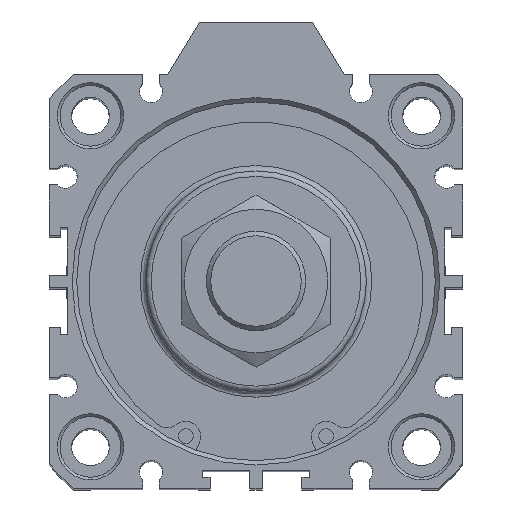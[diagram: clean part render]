
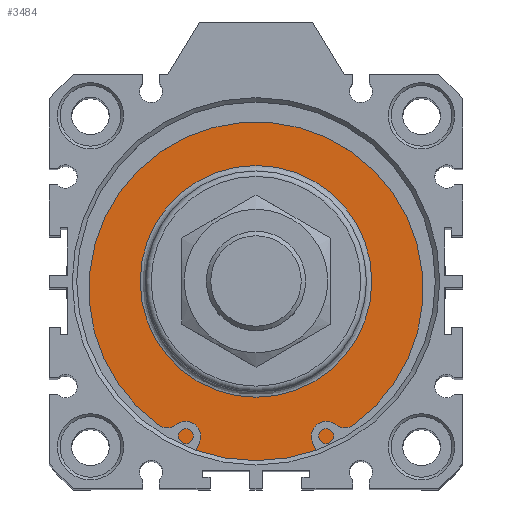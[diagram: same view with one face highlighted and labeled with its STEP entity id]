
A CAD part, top view. The second image highlights one B-rep face of the part: STEP entity #3484.
In plain terms, the highlighted planar face has unit normal (0, 0, 1).
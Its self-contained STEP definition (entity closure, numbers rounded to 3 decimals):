
#3433=CARTESIAN_POINT('',(2.99,22.555,177.3));
#3434=VERTEX_POINT('',#3433);
#3435=CARTESIAN_POINT('',(2.99,1.555,177.3));
#3436=DIRECTION('',(0.0,0.0,1.0));
#3437=DIRECTION('',(0.0,-1.0,0.0));
#3438=AXIS2_PLACEMENT_3D('',#3435,#3436,#3437);
#3439=CIRCLE('',#3438,21.);
#3440=EDGE_CURVE('',#3434,#3434,#3439,.T.);
#3465=CARTESIAN_POINT('',(2.99,27.805,177.3));
#3466=DIRECTION('',(0.0,0.0,1.0));
#3467=DIRECTION('',(1.0,0.0,0.0));
#3468=AXIS2_PLACEMENT_3D('',#3465,#3466,#3467);
#3469=PLANE('',#3468);
#3470=CARTESIAN_POINT('',(2.99,34.055,177.3));
#3471=VERTEX_POINT('',#3470);
#3472=CARTESIAN_POINT('',(2.99,1.555,177.3));
#3473=DIRECTION('',(0.0,0.0,-1.0));
#3474=DIRECTION('',(0.0,1.0,0.0));
#3475=AXIS2_PLACEMENT_3D('',#3472,#3473,#3474);
#3476=CIRCLE('',#3475,32.5);
#3477=EDGE_CURVE('',#3471,#3471,#3476,.T.);
#3478=ORIENTED_EDGE('',*,*,#3477,.F.);
#3479=EDGE_LOOP('',(#3478));
#3480=FACE_OUTER_BOUND('',#3479,.T.);
#3481=ORIENTED_EDGE('',*,*,#3440,.F.);
#3482=EDGE_LOOP('',(#3481));
#3483=FACE_BOUND('',#3482,.T.);
#3484=ADVANCED_FACE('',(#3480,#3483),#3469,.T.);
